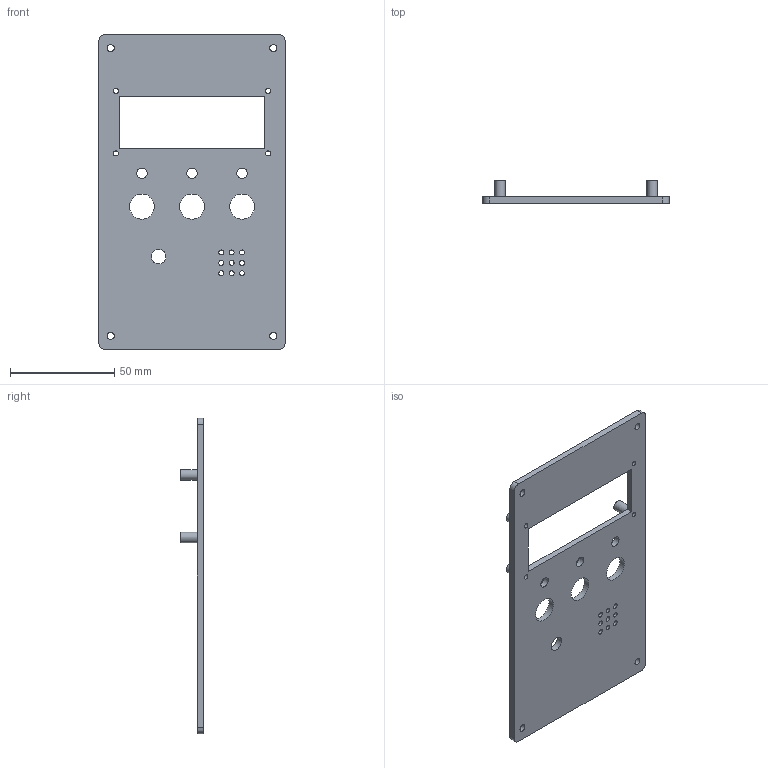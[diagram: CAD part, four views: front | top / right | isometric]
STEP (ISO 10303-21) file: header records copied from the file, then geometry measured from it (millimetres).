
FILE_DESCRIPTION(('Open CASCADE Model'),'2;1');
FILE_NAME('Open CASCADE Shape Model','2026-09-11T20:14:36',('Author'),( 'Open CASCADE'),'Open CASCADE STEP processor 7.9','Open CASCADE 7.9' ,'Unknown');
FILE_SCHEMA(('AUTOMOTIVE_DESIGN { 1 0 10303 214 1 1 1 1 }'));
Length unit declared in the file: millimetre
Products named in the file (1): Open CASCADE STEP translator 7.9 2
Bounding box: 89.2 x 11 x 151.2 mm (x, y, z)
Volume: 34076.1 mm3; surface area: 26104.8 mm2
Topology: 1 solids, 1 shells, 46 faces, 120 edges, 80 vertices
Faces by surface type: cylinder 32, plane 14
Full cylindrical faces by diameter (mm): 2.4 x13, 3.4 x4, 5 x7, 7 x1, 12 x3
Entity records: 3114 total; most frequent: CARTESIAN_POINT 527, DIRECTION 498, ORIENTED_EDGE 240, PCURVE 240, DEFINITIONAL_REPRESENTATION 240, LINE 216, VECTOR 216, CIRCLE 124
